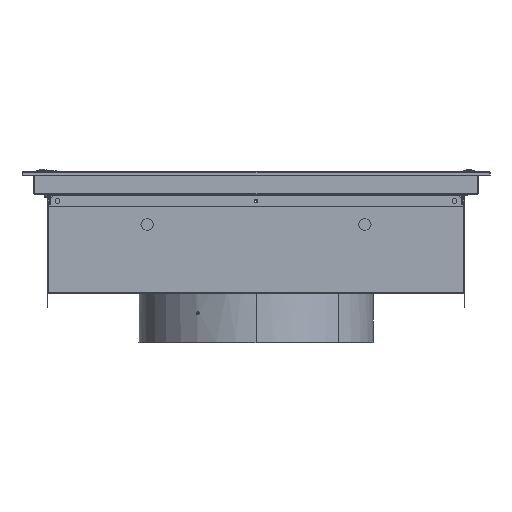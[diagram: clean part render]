
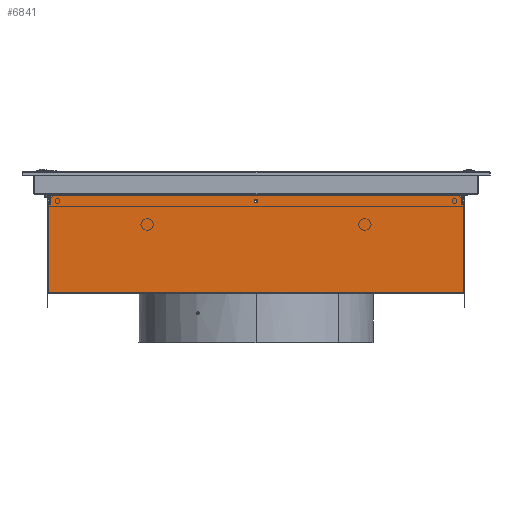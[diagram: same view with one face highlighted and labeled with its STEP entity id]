
A CAD part, left-side view. The second image highlights one B-rep face of the part: STEP entity #6841.
In plain terms, the highlighted planar face has unit normal (-1, 0, 0).
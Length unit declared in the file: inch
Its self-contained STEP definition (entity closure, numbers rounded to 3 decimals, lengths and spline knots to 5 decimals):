
#894 = CARTESIAN_POINT ( 'NONE',  ( -16.56225, -10.26604, -1.203 ) ) ;
#1075 = CARTESIAN_POINT ( 'NONE',  ( -16.56225, 10.52225, -6.137 ) ) ;
#2340 = CARTESIAN_POINT ( 'NONE',  ( -16.56225, 0., -1.091 ) ) ;
#2606 = VERTEX_POINT ( 'NONE', #13465 ) ;
#3010 = DIRECTION ( 'NONE',  ( 0., 1., 0. ) ) ;
#3181 = VECTOR ( 'NONE', #16632, 39.37008 ) ;
#3478 = CARTESIAN_POINT ( 'NONE',  ( -16.56225, 0.015, -1.203 ) ) ;
#3737 = ORIENTED_EDGE ( 'NONE', *, *, #37469, .F. ) ;
#3984 = VERTEX_POINT ( 'NONE', #7246 ) ;
#3995 = CARTESIAN_POINT ( 'NONE',  ( -16.56225, -10.52225, -6.137 ) ) ;
#4704 = FACE_OUTER_BOUND ( 'NONE', #34675, .T. ) ;
#5411 = AXIS2_PLACEMENT_3D ( 'NONE', #14678, #27415, #33899 ) ;
#5556 = VERTEX_POINT ( 'NONE', #32326 ) ;
#6437 = DIRECTION ( 'NONE',  ( 0., 0., -1. ) ) ;
#6841 = ADVANCED_FACE ( 'Face1', ( #33226, #4704 ), #39680, .F. ) ;
#6961 = CARTESIAN_POINT ( 'NONE',  ( -16.56225, 10.56225, -1.203 ) ) ;
#6969 = VECTOR ( 'NONE', #19840, 39.37008 ) ;
#7246 = CARTESIAN_POINT ( 'NONE',  ( -16.56225, -10.52225, -6.137 ) ) ;
#8218 = EDGE_CURVE ( 'NONE', #34145, #33997, #10234, .T. ) ;
#8367 = CARTESIAN_POINT ( 'NONE',  ( -16.56225, -10.51786, -1.44861 ) ) ;
#8408 = DIRECTION ( 'NONE',  ( -1., 0., 0. ) ) ;
#8559 = EDGE_CURVE ( 'NONE', #5556, #31413, #12958, .T. ) ;
#8708 = VECTOR ( 'NONE', #3010, 39.37008 ) ;
#9931 = DIRECTION ( 'NONE',  ( -1., 0., 0. ) ) ;
#10002 = CARTESIAN_POINT ( 'NONE',  ( -16.56225, 10.27225, -1.203 ) ) ;
#10196 = DIRECTION ( 'NONE',  ( 0., 0.707, -0.707 ) ) ;
#10234 = CIRCLE ( 'NONE', #34314, 0.015 ) ;
#10939 = EDGE_CURVE ( 'NONE', #30301, #12703, #22334, .T. ) ;
#11312 = DIRECTION ( 'NONE',  ( 1., 0., 0. ) ) ;
#11403 = AXIS2_PLACEMENT_3D ( 'NONE', #37423, #40537, #20716 ) ;
#11494 = CARTESIAN_POINT ( 'NONE',  ( -16.56225, 10.52225, -6.137 ) ) ;
#11903 = CARTESIAN_POINT ( 'NONE',  ( -16.56225, -10.52225, -1.45921 ) ) ;
#12045 = CARTESIAN_POINT ( 'NONE',  ( -16.56225, -0.075, -1.5046 ) ) ;
#12057 = ORIENTED_EDGE ( 'NONE', *, *, #8218, .T. ) ;
#12408 = EDGE_CURVE ( 'NONE', #3984, #21563, #19566, .T. ) ;
#12652 = CARTESIAN_POINT ( 'NONE',  ( -16.56225, 10.26604, -1.218 ) ) ;
#12703 = VERTEX_POINT ( 'NONE', #36620 ) ;
#12829 = ORIENTED_EDGE ( 'NONE', *, *, #8559, .T. ) ;
#12958 = CIRCLE ( 'NONE', #36286, 0.015 ) ;
#13113 = LINE ( 'NONE', #10002, #29641 ) ;
#13335 = EDGE_CURVE ( 'NONE', #31384, #40458, #38634, .T. ) ;
#13465 = CARTESIAN_POINT ( 'NONE',  ( -16.56225, 0., -1.204 ) ) ;
#13567 = LINE ( 'NONE', #6961, #33307 ) ;
#13692 = VERTEX_POINT ( 'NONE', #17183 ) ;
#13923 = ORIENTED_EDGE ( 'NONE', *, *, #34374, .F. ) ;
#14344 = DIRECTION ( 'NONE',  ( 0., 0., -1. ) ) ;
#14539 = DIRECTION ( 'NONE',  ( 0., -1., 0. ) ) ;
#14618 = DIRECTION ( 'NONE',  ( 0., 0., -1. ) ) ;
#14678 = CARTESIAN_POINT ( 'NONE',  ( -16.56225, 0., -1.5046 ) ) ;
#14792 = ORIENTED_EDGE ( 'NONE', *, *, #10939, .T. ) ;
#14979 = DIRECTION ( 'NONE',  ( 1., 0., 0. ) ) ;
#15449 = CARTESIAN_POINT ( 'NONE',  ( -16.56225, 10.56225, -6.137 ) ) ;
#15498 = CARTESIAN_POINT ( 'NONE',  ( -16.56225, 10.51786, -1.44861 ) ) ;
#15866 = CARTESIAN_POINT ( 'NONE',  ( -16.56225, -0.075, -1.5796 ) ) ;
#16125 = CARTESIAN_POINT ( 'NONE',  ( -16.56225, 10.50725, -1.45921 ) ) ;
#16379 = AXIS2_PLACEMENT_3D ( 'NONE', #2340, #14979, #14344 ) ;
#16632 = DIRECTION ( 'NONE',  ( 0., 0., 1. ) ) ;
#16915 = CARTESIAN_POINT ( 'NONE',  ( -16.56225, 0., 0. ) ) ;
#17045 = EDGE_CURVE ( 'NONE', #17609, #13692, #36327, .T. ) ;
#17183 = CARTESIAN_POINT ( 'NONE',  ( -16.56225, 0.075, -1.5046 ) ) ;
#17273 = CIRCLE ( 'NONE', #21975, 0.015 ) ;
#17427 = DIRECTION ( 'NONE',  ( 0., 0., 1. ) ) ;
#17609 = VERTEX_POINT ( 'NONE', #24120 ) ;
#18323 = ORIENTED_EDGE ( 'NONE', *, *, #34557, .T. ) ;
#18861 = CARTESIAN_POINT ( 'NONE',  ( -16.56225, 10.56225, -1.203 ) ) ;
#19062 = DIRECTION ( 'NONE',  ( 0., 0.707, 0.707 ) ) ;
#19483 = DIRECTION ( 'NONE',  ( 0., -1., 0. ) ) ;
#19566 = LINE ( 'NONE', #3995, #3181 ) ;
#19627 = DIRECTION ( 'NONE',  ( 0., 0., -1. ) ) ;
#19840 = DIRECTION ( 'NONE',  ( 0., 0., 1. ) ) ;
#19877 = DIRECTION ( 'NONE',  ( 0., 0., -1. ) ) ;
#20525 = EDGE_CURVE ( 'NONE', #31413, #30301, #13113, .T. ) ;
#20587 = LINE ( 'NONE', #1075, #32342 ) ;
#20677 = EDGE_CURVE ( 'NONE', #26041, #12703, #20587, .T. ) ;
#20716 = DIRECTION ( 'NONE',  ( 0., 0., -1. ) ) ;
#20736 = EDGE_CURVE ( 'NONE', #31937, #34145, #24937, .T. ) ;
#20999 = VECTOR ( 'NONE', #19062, 39.37008 ) ;
#21563 = VERTEX_POINT ( 'NONE', #11903 ) ;
#21975 = AXIS2_PLACEMENT_3D ( 'NONE', #38108, #34963, #6437 ) ;
#22334 = CIRCLE ( 'NONE', #27650, 0.015 ) ;
#22838 = ORIENTED_EDGE ( 'NONE', *, *, #36708, .T. ) ;
#22855 = DIRECTION ( 'NONE',  ( 0., 0., -1. ) ) ;
#23076 = CARTESIAN_POINT ( 'NONE',  ( -16.56225, 10.27664, -1.20739 ) ) ;
#23227 = CARTESIAN_POINT ( 'NONE',  ( -16.56225, -0.015, -1.203 ) ) ;
#23626 = DIRECTION ( 'NONE',  ( 0., 0., -1. ) ) ;
#24120 = CARTESIAN_POINT ( 'NONE',  ( -16.56225, 0.075, -1.5796 ) ) ;
#24250 = ORIENTED_EDGE ( 'NONE', *, *, #30917, .T. ) ;
#24937 = LINE ( 'NONE', #34530, #20999 ) ;
#25014 = ORIENTED_EDGE ( 'NONE', *, *, #20525, .T. ) ;
#26041 = VERTEX_POINT ( 'NONE', #11494 ) ;
#26069 = DIRECTION ( 'NONE',  ( 0., 1., 0. ) ) ;
#26101 = ORIENTED_EDGE ( 'NONE', *, *, #12408, .T. ) ;
#26158 = DIRECTION ( 'NONE',  ( -1., 0., 0. ) ) ;
#26922 = CARTESIAN_POINT ( 'NONE',  ( -16.56225, 0.075, -1.5046 ) ) ;
#27020 = VERTEX_POINT ( 'NONE', #3478 ) ;
#27415 = DIRECTION ( 'NONE',  ( 1., 0., 0. ) ) ;
#27650 = AXIS2_PLACEMENT_3D ( 'NONE', #16125, #26158, #19877 ) ;
#27725 = CIRCLE ( 'NONE', #16379, 0.113 ) ;
#28893 = AXIS2_PLACEMENT_3D ( 'NONE', #16915, #11312, #23626 ) ;
#28898 = EDGE_LOOP ( 'NONE', ( #35030, #33508, #40699, #24250 ) ) ;
#29641 = VECTOR ( 'NONE', #10196, 39.37008 ) ;
#30301 = VERTEX_POINT ( 'NONE', #15498 ) ;
#30443 = VERTEX_POINT ( 'NONE', #23227 ) ;
#30483 = VECTOR ( 'NONE', #19627, 39.37008 ) ;
#30747 = CIRCLE ( 'NONE', #11403, 0.113 ) ;
#30917 = EDGE_CURVE ( 'NONE', #40458, #17609, #38783, .T. ) ;
#31223 = ORIENTED_EDGE ( 'NONE', *, *, #20677, .F. ) ;
#31384 = VERTEX_POINT ( 'NONE', #12045 ) ;
#31413 = VERTEX_POINT ( 'NONE', #23076 ) ;
#31937 = VERTEX_POINT ( 'NONE', #8367 ) ;
#32324 = CARTESIAN_POINT ( 'NONE',  ( -16.56225, 0.075, -1.5796 ) ) ;
#32326 = CARTESIAN_POINT ( 'NONE',  ( -16.56225, 10.26604, -1.203 ) ) ;
#32342 = VECTOR ( 'NONE', #17427, 39.37008 ) ;
#33108 = ORIENTED_EDGE ( 'NONE', *, *, #20736, .T. ) ;
#33226 = FACE_BOUND ( 'NONE', #28898, .T. ) ;
#33307 = VECTOR ( 'NONE', #14539, 39.37008 ) ;
#33319 = EDGE_CURVE ( 'NONE', #2606, #27020, #27725, .T. ) ;
#33508 = ORIENTED_EDGE ( 'NONE', *, *, #37079, .T. ) ;
#33899 = DIRECTION ( 'NONE',  ( 0., 0., -1. ) ) ;
#33997 = VERTEX_POINT ( 'NONE', #894 ) ;
#34145 = VERTEX_POINT ( 'NONE', #37105 ) ;
#34314 = AXIS2_PLACEMENT_3D ( 'NONE', #37871, #8408, #14618 ) ;
#34374 = EDGE_CURVE ( 'NONE', #5556, #27020, #38092, .T. ) ;
#34478 = LINE ( 'NONE', #15449, #8708 ) ;
#34530 = CARTESIAN_POINT ( 'NONE',  ( -16.56225, -10.52225, -1.453 ) ) ;
#34557 = EDGE_CURVE ( 'NONE', #30443, #2606, #30747, .T. ) ;
#34675 = EDGE_LOOP ( 'NONE', ( #34767, #18323, #34787, #13923, #12829, #25014, #14792, #31223, #3737, #26101, #22838, #33108, #12057 ) ) ;
#34767 = ORIENTED_EDGE ( 'NONE', *, *, #36335, .F. ) ;
#34787 = ORIENTED_EDGE ( 'NONE', *, *, #33319, .T. ) ;
#34963 = DIRECTION ( 'NONE',  ( -1., 0., 0. ) ) ;
#35030 = ORIENTED_EDGE ( 'NONE', *, *, #17045, .T. ) ;
#35684 = CARTESIAN_POINT ( 'NONE',  ( -16.56225, -0.075, -1.5796 ) ) ;
#36286 = AXIS2_PLACEMENT_3D ( 'NONE', #12652, #9931, #22855 ) ;
#36327 = LINE ( 'NONE', #26922, #6969 ) ;
#36329 = VECTOR ( 'NONE', #26069, 39.37008 ) ;
#36335 = EDGE_CURVE ( 'NONE', #30443, #33997, #13567, .T. ) ;
#36620 = CARTESIAN_POINT ( 'NONE',  ( -16.56225, 10.52225, -1.45921 ) ) ;
#36647 = CIRCLE ( 'NONE', #5411, 0.075 ) ;
#36708 = EDGE_CURVE ( 'NONE', #21563, #31937, #17273, .T. ) ;
#37079 = EDGE_CURVE ( 'NONE', #13692, #31384, #36647, .T. ) ;
#37105 = CARTESIAN_POINT ( 'NONE',  ( -16.56225, -10.27664, -1.20739 ) ) ;
#37423 = CARTESIAN_POINT ( 'NONE',  ( -16.56225, 0., -1.091 ) ) ;
#37469 = EDGE_CURVE ( 'NONE', #3984, #26041, #34478, .T. ) ;
#37871 = CARTESIAN_POINT ( 'NONE',  ( -16.56225, -10.26604, -1.218 ) ) ;
#38092 = LINE ( 'NONE', #18861, #40052 ) ;
#38108 = CARTESIAN_POINT ( 'NONE',  ( -16.56225, -10.50725, -1.45921 ) ) ;
#38634 = LINE ( 'NONE', #15866, #30483 ) ;
#38783 = LINE ( 'NONE', #32324, #36329 ) ;
#39680 = PLANE ( 'NONE',  #28893 ) ;
#40052 = VECTOR ( 'NONE', #19483, 39.37008 ) ;
#40458 = VERTEX_POINT ( 'NONE', #35684 ) ;
#40537 = DIRECTION ( 'NONE',  ( 1., 0., 0. ) ) ;
#40699 = ORIENTED_EDGE ( 'NONE', *, *, #13335, .T. ) ;
